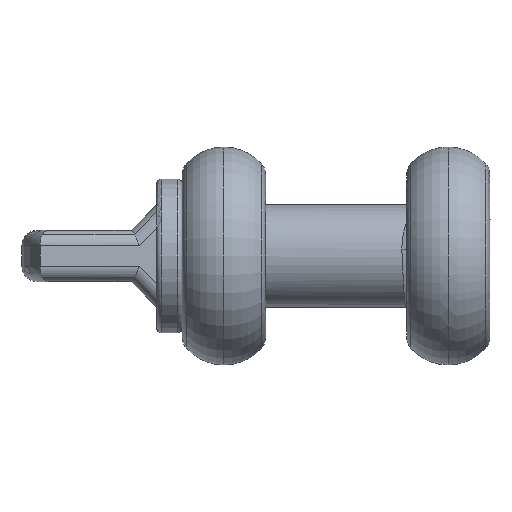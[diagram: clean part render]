
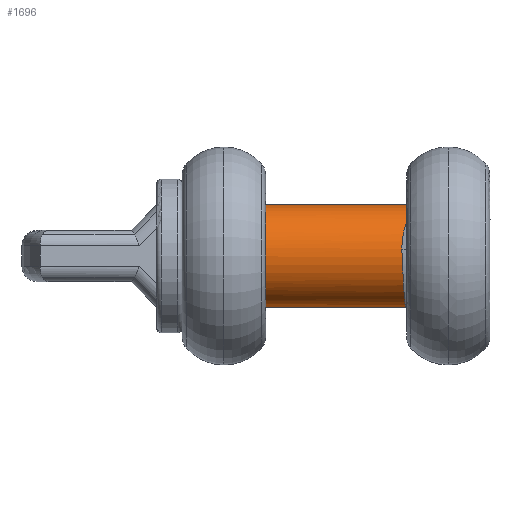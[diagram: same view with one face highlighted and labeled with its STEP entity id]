
A CAD part, front view. The second image highlights one B-rep face of the part: STEP entity #1696.
In plain terms, the highlighted cylindrical face has radius 8 mm (diameter 16 mm), a partial arc.
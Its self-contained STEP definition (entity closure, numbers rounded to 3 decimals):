
#1696=ADVANCED_FACE('',(#3412),#3413,.T.);
#3412=FACE_OUTER_BOUND('',#6659,.T.);
#3413=CYLINDRICAL_SURFACE('',#6660,8.0);
#6659=EDGE_LOOP('',(#12478,#12479,#12480,#12481,#12482,#12483,#12484,#12485,#12486));
#6660=AXIS2_PLACEMENT_3D('',#12487,#12488,#12489);
#12478=ORIENTED_EDGE('',*,*,#14940,.T.);
#12479=ORIENTED_EDGE('',*,*,#14942,.T.);
#12480=ORIENTED_EDGE('',*,*,#14943,.T.);
#12481=ORIENTED_EDGE('',*,*,#14944,.T.);
#12482=ORIENTED_EDGE('',*,*,#14945,.T.);
#12483=ORIENTED_EDGE('',*,*,#14946,.T.);
#12484=ORIENTED_EDGE('',*,*,#14947,.T.);
#12485=ORIENTED_EDGE('',*,*,#14938,.T.);
#12486=ORIENTED_EDGE('',*,*,#14936,.F.);
#12487=CARTESIAN_POINT('',(-24.0,0.0,0.0));
#12488=DIRECTION('',(-1.0,0.0,0.0));
#12489=DIRECTION('',(0.0,0.0,1.0));
#14936=EDGE_CURVE('',#18508,#18507,#18513,.T.);
#14938=EDGE_CURVE('',#18515,#18507,#18516,.F.);
#14940=EDGE_CURVE('',#18508,#18517,#18519,.T.);
#14942=EDGE_CURVE('',#18517,#18521,#18522,.T.);
#14943=EDGE_CURVE('',#18521,#18523,#18524,.T.);
#14944=EDGE_CURVE('',#18523,#18525,#18526,.T.);
#14945=EDGE_CURVE('',#18525,#18527,#18528,.T.);
#14946=EDGE_CURVE('',#18527,#18529,#18530,.T.);
#14947=EDGE_CURVE('',#18529,#18515,#18531,.T.);
#18507=VERTEX_POINT('',#27247);
#18508=VERTEX_POINT('',#27248);
#18513=CIRCLE('',#27253,8.0);
#18515=VERTEX_POINT('',#27255);
#18516=LINE('',#27256,#27257);
#18517=VERTEX_POINT('',#27258);
#18519=LINE('',#27289,#27290);
#18521=VERTEX_POINT('',#27292);
#18522=B_SPLINE_CURVE_WITH_KNOTS('',5,(#27293,#27294,#27295,#27296,#27297,#27298,#27299,#27300,#27301,#27302,#27303,#27304,#27305,#27306,#27307,#27308,#27309,#27310,#27311,#27312,#27313,#27314,#27315,#27316,#27317,#27318,#27319),.UNSPECIFIED.,.F.,.F.,(6,3,3,3,3,3,3,3,6),(0.0,5.017,6.817,8.618,10.419,12.22,15.04,17.861,22.442),.UNSPECIFIED.);
#18523=VERTEX_POINT('',#27320);
#18524=B_SPLINE_CURVE_WITH_KNOTS('',4,(#27321,#27322,#27323,#27324,#27325),.UNSPECIFIED.,.F.,.F.,(5,5),(0.0,9.077),.UNSPECIFIED.);
#18525=VERTEX_POINT('',#27326);
#18526=B_SPLINE_CURVE_WITH_KNOTS('',4,(#27327,#27328,#27329,#27330,#27331),.UNSPECIFIED.,.F.,.F.,(5,5),(0.0,9.077),.UNSPECIFIED.);
#18527=VERTEX_POINT('',#27332);
#18528=B_SPLINE_CURVE_WITH_KNOTS('',5,(#27333,#27334,#27335,#27336,#27337,#27338,#27339,#27340,#27341,#27342,#27343,#27344,#27345,#27346,#27347,#27348,#27349,#27350,#27351,#27352,#27353,#27354,#27355,#27356,#27357,#27358,#27359,#27360,#27361,#27362,#27363,#27364,#27365),.UNSPECIFIED.,.F.,.F.,(6,3,3,3,3,3,3,3,3,3,6),(0.0,5.9,7.805,9.71,11.616,13.521,15.503,17.485,19.468,21.45,23.175),.UNSPECIFIED.);
#18529=VERTEX_POINT('',#27366);
#18530=LINE('',#27367,#27368);
#18531=B_SPLINE_CURVE_WITH_KNOTS('',5,(#27369,#27370,#27371,#27372,#27373,#27374,#27375,#27376,#27377,#27378,#27379,#27380,#27381,#27382,#27383,#27384,#27385,#27386,#27387,#27388,#27389,#27390,#27391,#27392,#27393,#27394,#27395,#27396,#27397,#27398),.UNSPECIFIED.,.F.,.F.,(6,3,3,3,3,3,3,3,3,6),(0.0,2.865,5.729,7.451,9.174,10.896,12.619,18.522,29.341,38.726),.UNSPECIFIED.);
#27247=CARTESIAN_POINT('',(-23.75,0.0,8.0));
#27248=CARTESIAN_POINT('',(-23.75,0.,-8.0));
#27253=AXIS2_PLACEMENT_3D('',#28816,#28817,#28818);
#27255=CARTESIAN_POINT('',(12.046,0.,8.001));
#27256=CARTESIAN_POINT('',(-24.0,0.,8.0));
#27257=VECTOR('',#28819,1.0);
#27258=CARTESIAN_POINT('',(10.88,0.,-8.));
#27289=CARTESIAN_POINT('',(-24.0,0.,-8.0));
#27290=VECTOR('',#28820,1.0);
#27292=CARTESIAN_POINT('',(10.246,-7.926,1.083));
#27293=CARTESIAN_POINT('',(10.88,0.,-8.0));
#27294=CARTESIAN_POINT('',(10.847,-0.705,-8.0));
#27295=CARTESIAN_POINT('',(10.814,-1.41,-7.922));
#27296=CARTESIAN_POINT('',(10.782,-2.104,-7.767));
#27297=CARTESIAN_POINT('',(10.737,-3.016,-7.454));
#27298=CARTESIAN_POINT('',(10.693,-3.866,-7.011));
#27299=CARTESIAN_POINT('',(10.682,-4.063,-6.896));
#27300=CARTESIAN_POINT('',(10.664,-4.398,-6.688));
#27301=CARTESIAN_POINT('',(10.651,-4.627,-6.528));
#27302=CARTESIAN_POINT('',(10.646,-4.72,-6.46));
#27303=CARTESIAN_POINT('',(10.636,-4.884,-6.338));
#27304=CARTESIAN_POINT('',(10.627,-5.044,-6.21));
#27305=CARTESIAN_POINT('',(10.621,-5.133,-6.138));
#27306=CARTESIAN_POINT('',(10.608,-5.347,-5.957));
#27307=CARTESIAN_POINT('',(10.59,-5.633,-5.686));
#27308=CARTESIAN_POINT('',(10.579,-5.794,-5.525));
#27309=CARTESIAN_POINT('',(10.549,-6.231,-5.044));
#27310=CARTESIAN_POINT('',(10.519,-6.618,-4.52));
#27311=CARTESIAN_POINT('',(10.504,-6.795,-4.238));
#27312=CARTESIAN_POINT('',(10.476,-7.099,-3.718));
#27313=CARTESIAN_POINT('',(10.448,-7.353,-3.172));
#27314=CARTESIAN_POINT('',(10.433,-7.485,-2.866));
#27315=CARTESIAN_POINT('',(10.384,-7.821,-1.88));
#27316=CARTESIAN_POINT('',(10.336,-7.994,-0.849));
#27317=CARTESIAN_POINT('',(10.306,-8.037,-0.201));
#27318=CARTESIAN_POINT('',(10.276,-8.014,0.445));
#27319=CARTESIAN_POINT('',(10.246,-7.926,1.083));
#27320=CARTESIAN_POINT('',(11.1,-5.834,5.474));
#27321=CARTESIAN_POINT('',(10.246,-7.926,1.083));
#27322=CARTESIAN_POINT('',(10.246,-7.758,2.315));
#27323=CARTESIAN_POINT('',(10.395,-7.334,3.512));
#27324=CARTESIAN_POINT('',(10.691,-6.671,4.582));
#27325=CARTESIAN_POINT('',(11.1,-5.834,5.474));
#27326=CARTESIAN_POINT('',(11.954,-7.926,1.083));
#27327=CARTESIAN_POINT('',(11.1,-5.834,5.474));
#27328=CARTESIAN_POINT('',(11.509,-6.671,4.582));
#27329=CARTESIAN_POINT('',(11.805,-7.334,3.512));
#27330=CARTESIAN_POINT('',(11.954,-7.758,2.315));
#27331=CARTESIAN_POINT('',(11.954,-7.926,1.083));
#27332=CARTESIAN_POINT('',(12.587,0.,-7.999));
#27333=CARTESIAN_POINT('',(11.954,-7.926,1.083));
#27334=CARTESIAN_POINT('',(11.992,-8.039,0.262));
#27335=CARTESIAN_POINT('',(12.031,-8.044,-0.574));
#27336=CARTESIAN_POINT('',(12.069,-7.941,-1.407));
#27337=CARTESIAN_POINT('',(12.12,-7.664,-2.478));
#27338=CARTESIAN_POINT('',(12.171,-7.212,-3.478));
#27339=CARTESIAN_POINT('',(12.182,-7.099,-3.7));
#27340=CARTESIAN_POINT('',(12.203,-6.88,-4.094));
#27341=CARTESIAN_POINT('',(12.22,-6.683,-4.403));
#27342=CARTESIAN_POINT('',(12.228,-6.591,-4.538));
#27343=CARTESIAN_POINT('',(12.242,-6.412,-4.791));
#27344=CARTESIAN_POINT('',(12.257,-6.221,-5.034));
#27345=CARTESIAN_POINT('',(12.264,-6.117,-5.161));
#27346=CARTESIAN_POINT('',(12.281,-5.877,-5.437));
#27347=CARTESIAN_POINT('',(12.302,-5.561,-5.758));
#27348=CARTESIAN_POINT('',(12.314,-5.38,-5.93));
#27349=CARTESIAN_POINT('',(12.339,-4.966,-6.287));
#27350=CARTESIAN_POINT('',(12.364,-4.523,-6.608));
#27351=CARTESIAN_POINT('',(12.376,-4.308,-6.747));
#27352=CARTESIAN_POINT('',(12.397,-3.916,-6.983));
#27353=CARTESIAN_POINT('',(12.414,-3.599,-7.148));
#27354=CARTESIAN_POINT('',(12.421,-3.459,-7.216));
#27355=CARTESIAN_POINT('',(12.435,-3.195,-7.338));
#27356=CARTESIAN_POINT('',(12.448,-2.927,-7.447));
#27357=CARTESIAN_POINT('',(12.455,-2.781,-7.504));
#27358=CARTESIAN_POINT('',(12.472,-2.445,-7.624));
#27359=CARTESIAN_POINT('',(12.493,-2.006,-7.75));
#27360=CARTESIAN_POINT('',(12.505,-1.757,-7.812));
#27361=CARTESIAN_POINT('',(12.529,-1.245,-7.913));
#27362=CARTESIAN_POINT('',(12.553,-0.727,-7.972));
#27363=CARTESIAN_POINT('',(12.565,-0.485,-7.991));
#27364=CARTESIAN_POINT('',(12.576,-0.243,-8.0));
#27365=CARTESIAN_POINT('',(12.587,0.,-8.0));
#27366=CARTESIAN_POINT('',(13.212,0.,-8.001));
#27367=CARTESIAN_POINT('',(-24.0,0.,-8.0));
#27368=VECTOR('',#28821,1.0);
#27369=CARTESIAN_POINT('',(13.212,0.,-8.0));
#27370=CARTESIAN_POINT('',(13.193,-0.403,-8.0));
#27371=CARTESIAN_POINT('',(13.175,-0.805,-7.975));
#27372=CARTESIAN_POINT('',(13.16,-1.119,-7.928));
#27373=CARTESIAN_POINT('',(13.135,-1.657,-7.838));
#27374=CARTESIAN_POINT('',(13.109,-2.186,-7.703));
#27375=CARTESIAN_POINT('',(13.095,-2.491,-7.618));
#27376=CARTESIAN_POINT('',(13.065,-3.097,-7.394));
#27377=CARTESIAN_POINT('',(13.035,-3.677,-7.111));
#27378=CARTESIAN_POINT('',(13.025,-3.871,-7.006));
#27379=CARTESIAN_POINT('',(13.007,-4.205,-6.811));
#27380=CARTESIAN_POINT('',(12.993,-4.446,-6.653));
#27381=CARTESIAN_POINT('',(12.988,-4.547,-6.584));
#27382=CARTESIAN_POINT('',(12.977,-4.73,-6.455));
#27383=CARTESIAN_POINT('',(12.967,-4.907,-6.319));
#27384=CARTESIAN_POINT('',(12.961,-5.004,-6.244));
#27385=CARTESIAN_POINT('',(12.948,-5.228,-6.061));
#27386=CARTESIAN_POINT('',(12.93,-5.514,-5.801));
#27387=CARTESIAN_POINT('',(12.92,-5.673,-5.649));
#27388=CARTESIAN_POINT('',(12.87,-6.412,-4.871));
#27389=CARTESIAN_POINT('',(12.82,-7.017,-3.975));
#27390=CARTESIAN_POINT('',(12.782,-7.392,-3.225));
#27391=CARTESIAN_POINT('',(12.673,-8.167,-0.985));
#27392=CARTESIAN_POINT('',(12.564,-8.096,1.43));
#27393=CARTESIAN_POINT('',(12.493,-7.673,2.953));
#27394=CARTESIAN_POINT('',(12.361,-6.24,5.497));
#27395=CARTESIAN_POINT('',(12.229,-3.882,7.184));
#27396=CARTESIAN_POINT('',(12.168,-2.638,7.728));
#27397=CARTESIAN_POINT('',(12.107,-1.319,8.0));
#27398=CARTESIAN_POINT('',(12.046,0.,8.0));
#28816=CARTESIAN_POINT('',(-23.75,0.0,0.0));
#28817=DIRECTION('',(-1.0,0.0,0.0));
#28818=DIRECTION('',(0.0,0.0,1.0));
#28819=DIRECTION('',(1.0,0.0,0.0));
#28820=DIRECTION('',(1.0,0.0,0.0));
#28821=DIRECTION('',(1.0,0.0,0.0));
